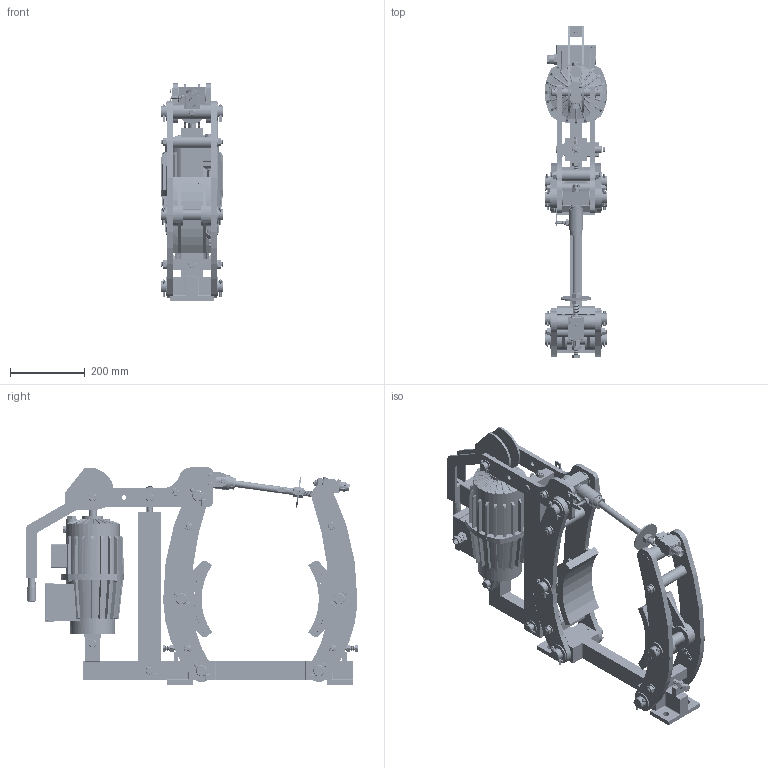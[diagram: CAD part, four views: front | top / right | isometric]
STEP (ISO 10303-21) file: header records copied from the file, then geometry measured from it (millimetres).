
FILE_DESCRIPTION((''),'2;1');
FILE_NAME('4459_314_552_E00001','2018-01-30T',('VORO'),(''),'CREO PARAMETRIC BY PTC INC, 2017170','CREO PARAMETRIC BY PTC INC, 2017170','');
FILE_SCHEMA(('CONFIG_CONTROL_DESIGN'));
Products named in the file (1): 4459_314_552_E00001
Bounding box: 169.08 x 890.78 x 583 mm (x, y, z)
Surface area: 2239879.3 mm2 (no closed solid volume)
Topology: 0 solids, 3221 shells, 3933 faces, 25020 edges, 23545 vertices
Faces by surface type: plane 1522, cylinder 1300, cone 891, torus 179, bspline 37, sphere 4
Entity records: 423776 total; most frequent: CARTESIAN_POINT 133867, PRESENTATION_STYLE_ASSIGNMENT 32160, STYLED_ITEM 28227, DIRECTION 27189, ORIENTED_EDGE 26475, CURVE_STYLE 25006, EDGE_CURVE 25006, VERTEX_POINT 23547
